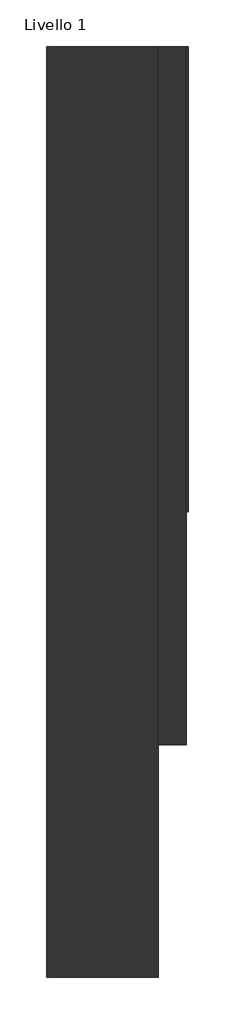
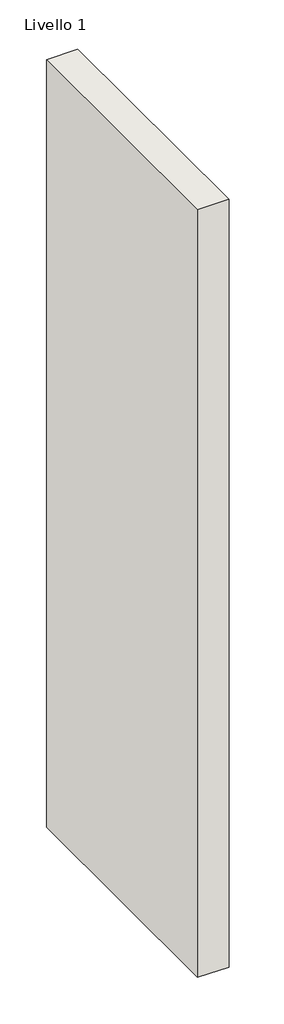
# One storey: 1 wall.
"""IFC4 building model written with IfcOpenShell, lengths in millimetres."""

from ifc_helpers import new_model, si_unit, origin, origin_with_axes, place, context, project, spatial, polyline, outline, extrude, element, save

model = new_model("IFC4")

# Units and contexts
model_context = context("Model", 3, world=origin())
ifc_project = project(units=[si_unit("LENGTHUNIT", "METRE", prefix="MILLI")], contexts=[model_context])

# Site, building, storey
site = spatial("IfcSite", under=ifc_project)
building = spatial("IfcBuilding", under=site)
storey = spatial("IfcBuildingStorey", under=building, Name="Livello 1", Elevation=0.0)

# Wall
placement = place(None, origin())
element("IfcWall", 1, ObjectType="MAPEI - Sistema completo para a reabilitação de alvenarias degradadas pela presença de humidade ascendente (reboco transpirante à base de cal)", at=placement, inside=storey, context=model_context, shape_type="SweptSolid", body=[
    extrude(outline(polyline([(433.8913918, 1184.9122843), (433.8913918, 684.9122843), (431.7013918, 684.9122843), (431.7013918, 1184.9122843), (433.8913918, 1184.9122843)])), origin_with_axes(), (0.0, 0.0, 1.0), 2033.3333333),
    extrude(outline(polyline([(431.7013918, 434.9122843), (401.7013918, 434.9122843), (401.7013918, 1184.9122843), (431.7013918, 1184.9122843), (431.7013918, 434.9122843)])), origin_with_axes(), (0.0, 0.0, 1.0), 2566.6666667),
    extrude(outline(polyline([(281.7013918, 184.9122843), (281.7013918, 1184.9122843), (401.7013918, 1184.9122843), (401.7013918, 184.9122843), (281.7013918, 184.9122843)])), origin_with_axes(), (0.0, 0.0, 1.0), 3100.0),
])

save(model, "model.ifc")
